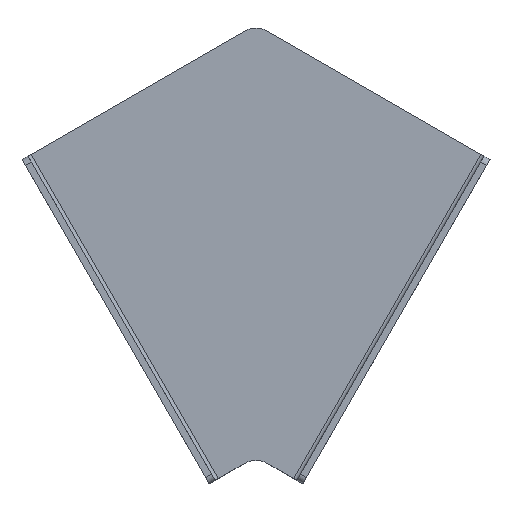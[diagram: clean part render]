
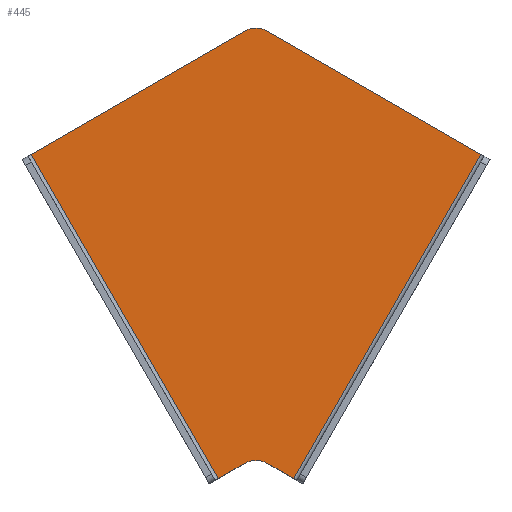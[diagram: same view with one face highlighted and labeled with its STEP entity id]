
A CAD part, top view. The second image highlights one B-rep face of the part: STEP entity #445.
In plain terms, the highlighted planar face has unit normal (0, 0, 1).
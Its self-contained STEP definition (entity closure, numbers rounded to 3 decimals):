
#26 = DIRECTION ( 'NONE',  ( 0., 0., -1. ) ) ;
#31 = CARTESIAN_POINT ( 'NONE',  ( 68.239, 76.822, 3. ) ) ;
#79 = DIRECTION ( 'NONE',  ( 0., 0., 1. ) ) ;
#133 = AXIS2_PLACEMENT_3D ( 'NONE', #945, #26, #1100 ) ;
#147 = CARTESIAN_POINT ( 'NONE',  ( 79.342, -114.341, 3. ) ) ;
#161 = VECTOR ( 'NONE', #1364, 1000. ) ;
#181 = ORIENTED_EDGE ( 'NONE', *, *, #255, .T. ) ;
#187 = CARTESIAN_POINT ( 'NONE',  ( 63.239, 68.161, 3. ) ) ;
#213 = VERTEX_POINT ( 'NONE', #1610 ) ;
#221 = AXIS2_PLACEMENT_3D ( 'NONE', #837, #79, #1149 ) ;
#242 = VERTEX_POINT ( 'NONE', #680 ) ;
#255 = EDGE_CURVE ( 'NONE', #972, #895, #941, .T. ) ;
#269 = EDGE_CURVE ( 'NONE', #1976, #972, #1863, .T. ) ;
#313 = AXIS2_PLACEMENT_3D ( 'NONE', #187, #1255, #339 ) ;
#339 = DIRECTION ( 'NONE',  ( 1., 0., 0. ) ) ;
#354 = LINE ( 'NONE', #1245, #1124 ) ;
#445 = ADVANCED_FACE ( 'NONE', ( #1949 ), #992, .T. ) ;
#476 = ORIENTED_EDGE ( 'NONE', *, *, #598, .T. ) ;
#488 = VECTOR ( 'NONE', #700, 1000. ) ;
#513 = CARTESIAN_POINT ( 'NONE',  ( 58.239, 76.822, 3. ) ) ;
#562 = ORIENTED_EDGE ( 'NONE', *, *, #269, .T. ) ;
#598 = EDGE_CURVE ( 'NONE', #895, #1535, #1692, .T. ) ;
#611 = CARTESIAN_POINT ( 'NONE',  ( -29.676, -51.4, 3. ) ) ;
#623 = ORIENTED_EDGE ( 'NONE', *, *, #1056, .T. ) ;
#680 = CARTESIAN_POINT ( 'NONE',  ( 58.239, -107.931, 3. ) ) ;
#700 = DIRECTION ( 'NONE',  ( -0.866, 0.5, 0. ) ) ;
#705 = ORIENTED_EDGE ( 'NONE', *, *, #1929, .T. ) ;
#750 = LINE ( 'NONE', #1870, #1982 ) ;
#829 = CARTESIAN_POINT ( 'NONE',  ( 50.324, 87.164, 3. ) ) ;
#837 = CARTESIAN_POINT ( 'NONE',  ( 0., 0., 3. ) ) ;
#845 = CARTESIAN_POINT ( 'NONE',  ( 159.342, 24.223, 3. ) ) ;
#846 = ORIENTED_EDGE ( 'NONE', *, *, #1477, .F. ) ;
#872 = VERTEX_POINT ( 'NONE', #1938 ) ;
#895 = VERTEX_POINT ( 'NONE', #31 ) ;
#928 = VECTOR ( 'NONE', #1531, 1000. ) ;
#941 = LINE ( 'NONE', #829, #488 ) ;
#945 = CARTESIAN_POINT ( 'NONE',  ( 63.239, -116.591, 3. ) ) ;
#972 = VERTEX_POINT ( 'NONE', #1455 ) ;
#992 = PLANE ( 'NONE',  #221 ) ;
#1030 = CIRCLE ( 'NONE', #133, 10. ) ;
#1032 = LINE ( 'NONE', #1525, #161 ) ;
#1036 = VECTOR ( 'NONE', #1939, 1000. ) ;
#1056 = EDGE_CURVE ( 'NONE', #242, #213, #1030, .T. ) ;
#1065 = EDGE_LOOP ( 'NONE', ( #846, #705, #1815, #623, #1270, #562, #181, #476 ) ) ;
#1100 = DIRECTION ( 'NONE',  ( 1., 0., 0. ) ) ;
#1124 = VECTOR ( 'NONE', #1405, 1000. ) ;
#1149 = DIRECTION ( 'NONE',  ( 1., 0., 0. ) ) ;
#1202 = EDGE_CURVE ( 'NONE', #872, #242, #750, .T. ) ;
#1245 = CARTESIAN_POINT ( 'NONE',  ( -18.705, 32.398, 3. ) ) ;
#1255 = DIRECTION ( 'NONE',  ( 0., 0., 1. ) ) ;
#1270 = ORIENTED_EDGE ( 'NONE', *, *, #1964, .T. ) ;
#1320 = CARTESIAN_POINT ( 'NONE',  ( -32.864, 24.223, 3. ) ) ;
#1364 = DIRECTION ( 'NONE',  ( 0.5, -0.866, 0. ) ) ;
#1395 = DIRECTION ( 'NONE',  ( 0.866, 0.5, 0. ) ) ;
#1405 = DIRECTION ( 'NONE',  ( 0.866, 0.5, 0. ) ) ;
#1455 = CARTESIAN_POINT ( 'NONE',  ( 159.342, 24.223, 3. ) ) ;
#1477 = EDGE_CURVE ( 'NONE', #1707, #1535, #354, .T. ) ;
#1525 = CARTESIAN_POINT ( 'NONE',  ( 47.136, -114.341, 3. ) ) ;
#1531 = DIRECTION ( 'NONE',  ( 0.866, -0.5, 0. ) ) ;
#1535 = VERTEX_POINT ( 'NONE', #513 ) ;
#1610 = CARTESIAN_POINT ( 'NONE',  ( 68.239, -107.931, 3. ) ) ;
#1692 = CIRCLE ( 'NONE', #313, 10. ) ;
#1707 = VERTEX_POINT ( 'NONE', #1320 ) ;
#1775 = LINE ( 'NONE', #611, #928 ) ;
#1815 = ORIENTED_EDGE ( 'NONE', *, *, #1202, .T. ) ;
#1863 = LINE ( 'NONE', #845, #1036 ) ;
#1870 = CARTESIAN_POINT ( 'NONE',  ( 61.295, -106.166, 3. ) ) ;
#1929 = EDGE_CURVE ( 'NONE', #1707, #872, #1032, .T. ) ;
#1938 = CARTESIAN_POINT ( 'NONE',  ( 47.136, -114.341, 3. ) ) ;
#1939 = DIRECTION ( 'NONE',  ( 0.5, 0.866, 0. ) ) ;
#1949 = FACE_OUTER_BOUND ( 'NONE', #1065, .T. ) ;
#1964 = EDGE_CURVE ( 'NONE', #213, #1976, #1775, .T. ) ;
#1976 = VERTEX_POINT ( 'NONE', #147 ) ;
#1982 = VECTOR ( 'NONE', #1395, 1000. ) ;
